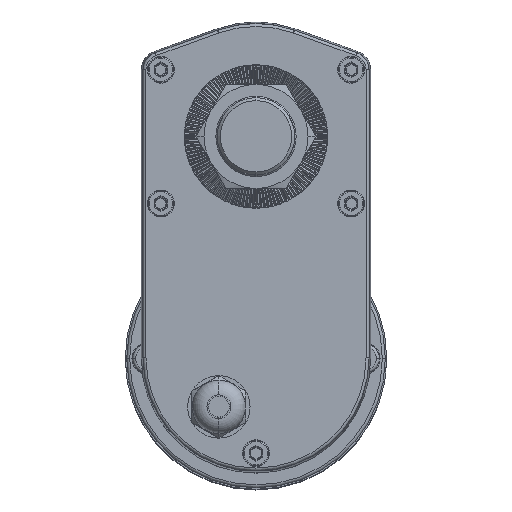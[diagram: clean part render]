
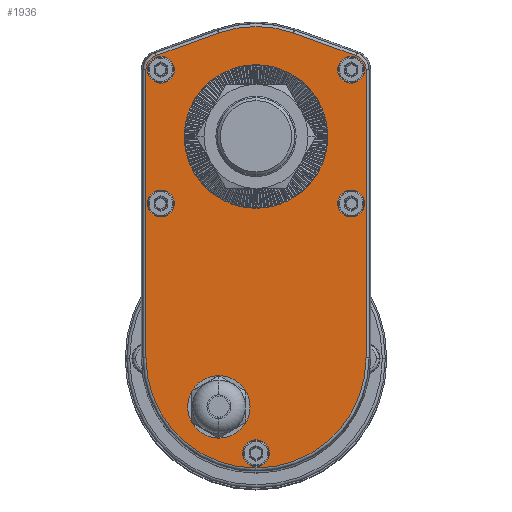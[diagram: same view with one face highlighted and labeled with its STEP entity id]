
A CAD part, top view. The second image highlights one B-rep face of the part: STEP entity #1936.
In plain terms, the highlighted planar face has unit normal (0, 0, 1).
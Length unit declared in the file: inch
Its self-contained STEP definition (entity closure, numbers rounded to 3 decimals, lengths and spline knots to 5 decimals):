
#1936=ADVANCED_FACE('NONE',(#4677,#4678,#4679,#4680,#4681,#4682,#4683,#4684),#4685,.F.);
#4677=FACE_OUTER_BOUND('',#9457,.T.);
#4678=FACE_BOUND('',#9458,.T.);
#4679=FACE_BOUND('',#9459,.T.);
#4680=FACE_BOUND('',#9460,.T.);
#4681=FACE_BOUND('',#9461,.T.);
#4682=FACE_BOUND('',#9462,.T.);
#4683=FACE_BOUND('',#9463,.T.);
#4684=FACE_BOUND('',#9464,.T.);
#4685=PLANE('',#9465);
#9457=EDGE_LOOP('',(#17319,#17320,#17321,#17322,#17323,#17324,#17325,#17326));
#9458=EDGE_LOOP('',(#17327,#17328));
#9459=EDGE_LOOP('',(#17329,#17330));
#9460=EDGE_LOOP('',(#17331,#17332));
#9461=EDGE_LOOP('',(#17333,#17334));
#9462=EDGE_LOOP('',(#17335,#17336));
#9463=EDGE_LOOP('',(#17337,#17338));
#9464=EDGE_LOOP('',(#17339,#17340));
#9465=AXIS2_PLACEMENT_3D('',#17341,#17342,#17343);
#17319=ORIENTED_EDGE('',*,*,#26296,.T.);
#17320=ORIENTED_EDGE('',*,*,#26297,.T.);
#17321=ORIENTED_EDGE('',*,*,#26298,.T.);
#17322=ORIENTED_EDGE('',*,*,#26299,.T.);
#17323=ORIENTED_EDGE('',*,*,#25374,.T.);
#17324=ORIENTED_EDGE('',*,*,#26300,.T.);
#17325=ORIENTED_EDGE('',*,*,#26301,.T.);
#17326=ORIENTED_EDGE('',*,*,#26075,.T.);
#17327=ORIENTED_EDGE('',*,*,#26228,.F.);
#17328=ORIENTED_EDGE('',*,*,#26302,.F.);
#17329=ORIENTED_EDGE('',*,*,#26303,.F.);
#17330=ORIENTED_EDGE('',*,*,#26304,.F.);
#17331=ORIENTED_EDGE('',*,*,#26305,.F.);
#17332=ORIENTED_EDGE('',*,*,#26306,.F.);
#17333=ORIENTED_EDGE('',*,*,#26307,.F.);
#17334=ORIENTED_EDGE('',*,*,#26308,.F.);
#17335=ORIENTED_EDGE('',*,*,#26117,.F.);
#17336=ORIENTED_EDGE('',*,*,#26309,.F.);
#17337=ORIENTED_EDGE('',*,*,#24594,.F.);
#17338=ORIENTED_EDGE('',*,*,#26310,.F.);
#17339=ORIENTED_EDGE('',*,*,#26292,.F.);
#17340=ORIENTED_EDGE('',*,*,#26311,.F.);
#17341=CARTESIAN_POINT('',(-1.09822,2.41333,28.81693));
#17342=DIRECTION('',(0.0,0.0,-1.0));
#17343=DIRECTION('',(0.0,-1.0,0.0));
#24594=EDGE_CURVE('NONE',#28846,#28849,#28850,.T.);
#25374=EDGE_CURVE('NONE',#30215,#30213,#30216,.T.);
#26075=EDGE_CURVE('NONE',#31308,#31313,#31315,.T.);
#26117=EDGE_CURVE('NONE',#31375,#31377,#31378,.T.);
#26228=EDGE_CURVE('NONE',#31541,#31543,#31544,.T.);
#26292=EDGE_CURVE('NONE',#31640,#31643,#31644,.T.);
#26296=EDGE_CURVE('NONE',#31313,#31649,#31650,.T.);
#26297=EDGE_CURVE('NONE',#31649,#31651,#31652,.T.);
#26298=EDGE_CURVE('NONE',#31651,#31653,#31654,.T.);
#26299=EDGE_CURVE('NONE',#31653,#30215,#31655,.T.);
#26300=EDGE_CURVE('NONE',#30213,#31656,#31657,.T.);
#26301=EDGE_CURVE('NONE',#31656,#31308,#31658,.T.);
#26302=EDGE_CURVE('NONE',#31543,#31541,#31659,.T.);
#26303=EDGE_CURVE('NONE',#31660,#31661,#31662,.T.);
#26304=EDGE_CURVE('NONE',#31661,#31660,#31663,.T.);
#26305=EDGE_CURVE('NONE',#31664,#31665,#31666,.T.);
#26306=EDGE_CURVE('NONE',#31665,#31664,#31667,.T.);
#26307=EDGE_CURVE('NONE',#31668,#31669,#31670,.T.);
#26308=EDGE_CURVE('NONE',#31669,#31668,#31671,.T.);
#26309=EDGE_CURVE('NONE',#31377,#31375,#31672,.T.);
#26310=EDGE_CURVE('NONE',#28849,#28846,#31673,.T.);
#26311=EDGE_CURVE('NONE',#31643,#31640,#31674,.T.);
#28846=VERTEX_POINT('NONE',#35125);
#28849=VERTEX_POINT('',#35129);
#28850=CIRCLE('',#35130,0.17717);
#30213=VERTEX_POINT('NONE',#39024);
#30215=VERTEX_POINT('NONE',#39026);
#30216=LINE('',#39027,#39028);
#31308=VERTEX_POINT('NONE',#41509);
#31313=VERTEX_POINT('NONE',#41514);
#31315=CIRCLE('',#41516,0.19754);
#31375=VERTEX_POINT('NONE',#41698);
#31377=VERTEX_POINT('',#41701);
#31378=CIRCLE('',#41702,0.17717);
#31541=VERTEX_POINT('NONE',#42076);
#31543=VERTEX_POINT('',#42079);
#31544=CIRCLE('',#42080,0.3248);
#31640=VERTEX_POINT('NONE',#42297);
#31643=VERTEX_POINT('',#42301);
#31644=CIRCLE('',#42302,0.17717);
#31649=VERTEX_POINT('NONE',#42308);
#31650=LINE('',#42309,#42310);
#31651=VERTEX_POINT('NONE',#42311);
#31652=CIRCLE('',#42312,1.45718);
#31653=VERTEX_POINT('NONE',#42313);
#31654=LINE('',#42314,#42315);
#31655=CIRCLE('',#42316,0.19754);
#31656=VERTEX_POINT('NONE',#42317);
#31657=CIRCLE('',#42318,1.45738);
#31658=LINE('',#42319,#42320);
#31659=CIRCLE('',#42321,0.3248);
#31660=VERTEX_POINT('NONE',#42322);
#31661=VERTEX_POINT('',#42323);
#31662=CIRCLE('',#42324,0.94882);
#31663=CIRCLE('',#42325,0.94882);
#31664=VERTEX_POINT('NONE',#42326);
#31665=VERTEX_POINT('',#42327);
#31666=CIRCLE('',#42328,0.17717);
#31667=CIRCLE('',#42329,0.17717);
#31668=VERTEX_POINT('NONE',#42330);
#31669=VERTEX_POINT('',#42331);
#31670=CIRCLE('',#42332,0.17717);
#31671=CIRCLE('',#42333,0.17717);
#31672=CIRCLE('',#42334,0.17717);
#31673=CIRCLE('',#42335,0.17717);
#31674=CIRCLE('',#42336,0.17717);
#35125=CARTESIAN_POINT('',(-2.1809,1.52593,28.81693));
#35129=CARTESIAN_POINT('',(-2.53523,1.52593,28.81693));
#35130=AXIS2_PLACEMENT_3D('',#49855,#49856,#49857);
#39024=CARTESIAN_POINT('',(-0.60273,3.78389,28.81693));
#39026=CARTESIAN_POINT('',(0.22858,3.48335,28.81693));
#39027=CARTESIAN_POINT('',(-0.60273,3.78389,28.81693));
#39028=VECTOR('',#50585,39.37008);
#41509=CARTESIAN_POINT('',(-2.42503,3.48335,28.81693));
#41514=CARTESIAN_POINT('',(-2.55541,3.29758,28.81693));
#41516=AXIS2_PLACEMENT_3D('',#51349,#51350,#51351);
#41698=CARTESIAN_POINT('',(-0.92106,-1.78116,28.81693));
#41701=CARTESIAN_POINT('',(-1.27539,-1.78116,28.81693));
#41702=AXIS2_PLACEMENT_3D('',#51392,#51393,#51394);
#42076=CARTESIAN_POINT('',(-1.91515,-1.16801,28.81693));
#42079=CARTESIAN_POINT('',(-1.26555,-1.16801,28.81693));
#42080=AXIS2_PLACEMENT_3D('',#51504,#51505,#51506);
#42297=CARTESIAN_POINT('',(-2.1809,3.29758,28.81693));
#42301=CARTESIAN_POINT('',(-2.53523,3.29758,28.81693));
#42302=AXIS2_PLACEMENT_3D('',#51569,#51570,#51571);
#42308=CARTESIAN_POINT('',(-2.55541,-0.51954,28.81693));
#42309=CARTESIAN_POINT('',(-2.55541,-0.51954,28.81693));
#42310=VECTOR('',#51576,39.37008);
#42311=CARTESIAN_POINT('',(0.35896,-0.51954,28.81693));
#42312=AXIS2_PLACEMENT_3D('',#51577,#51578,#51579);
#42313=CARTESIAN_POINT('',(0.35896,3.29758,28.81693));
#42314=CARTESIAN_POINT('',(0.35896,3.29758,28.81693));
#42315=VECTOR('',#51580,39.37008);
#42316=AXIS2_PLACEMENT_3D('',#51581,#51582,#51583);
#42317=CARTESIAN_POINT('',(-1.59372,3.78389,28.81693));
#42318=AXIS2_PLACEMENT_3D('',#51584,#51585,#51586);
#42319=CARTESIAN_POINT('',(-2.42503,3.48335,28.81693));
#42320=VECTOR('',#51587,39.37008);
#42321=AXIS2_PLACEMENT_3D('',#51588,#51589,#51590);
#42322=CARTESIAN_POINT('',(-2.04704,2.41333,28.81693));
#42323=CARTESIAN_POINT('',(-0.14941,2.41333,28.81693));
#42324=AXIS2_PLACEMENT_3D('',#51591,#51592,#51593);
#42325=AXIS2_PLACEMENT_3D('',#51594,#51595,#51596);
#42326=CARTESIAN_POINT('',(-0.01555,3.29758,28.81693));
#42327=CARTESIAN_POINT('',(0.33878,3.29758,28.81693));
#42328=AXIS2_PLACEMENT_3D('',#51597,#51598,#51599);
#42329=AXIS2_PLACEMENT_3D('',#51600,#51601,#51602);
#42330=CARTESIAN_POINT('',(-0.01555,1.52593,28.81693));
#42331=CARTESIAN_POINT('',(0.33878,1.52593,28.81693));
#42332=AXIS2_PLACEMENT_3D('',#51603,#51604,#51605);
#42333=AXIS2_PLACEMENT_3D('',#51606,#51607,#51608);
#42334=AXIS2_PLACEMENT_3D('',#51609,#51610,#51611);
#42335=AXIS2_PLACEMENT_3D('',#51612,#51613,#51614);
#42336=AXIS2_PLACEMENT_3D('',#51615,#51616,#51617);
#49855=CARTESIAN_POINT('',(-2.35807,1.52593,28.81693));
#49856=DIRECTION('',(0.0,0.0,1.0));
#49857=DIRECTION('',(1.0,0.0,0.0));
#50585=DIRECTION('',(-0.94,0.34,0.0));
#51349=CARTESIAN_POINT('',(-2.35787,3.29758,28.81693));
#51350=DIRECTION('',(0.0,0.0,1.0));
#51351=DIRECTION('',(-1.0,0.0,0.0));
#51392=CARTESIAN_POINT('',(-1.09822,-1.78116,28.81693));
#51393=DIRECTION('',(0.0,0.0,1.0));
#51394=DIRECTION('',(1.0,0.0,0.0));
#51504=CARTESIAN_POINT('',(-1.59035,-1.16801,28.81693));
#51505=DIRECTION('',(0.0,0.0,1.0));
#51506=DIRECTION('',(-1.0,0.0,0.0));
#51569=CARTESIAN_POINT('',(-2.35807,3.29758,28.81693));
#51570=DIRECTION('',(0.0,0.0,1.0));
#51571=DIRECTION('',(1.0,0.0,0.0));
#51576=DIRECTION('',(0.,-1.0,-0.0));
#51577=CARTESIAN_POINT('',(-1.09822,-0.51954,28.81693));
#51578=DIRECTION('',(0.0,0.0,1.0));
#51579=DIRECTION('',(-1.0,0.0,0.0));
#51580=DIRECTION('',(0.,1.0,0.0));
#51581=CARTESIAN_POINT('',(0.16142,3.29758,28.81693));
#51582=DIRECTION('',(0.0,0.0,1.0));
#51583=DIRECTION('',(-1.0,0.,0.0));
#51584=CARTESIAN_POINT('',(-1.09822,2.41333,28.81693));
#51585=DIRECTION('',(0.0,0.0,1.0));
#51586=DIRECTION('',(-1.0,0.,0.0));
#51587=DIRECTION('',(-0.94,-0.34,-0.0));
#51588=CARTESIAN_POINT('',(-1.59035,-1.16801,28.81693));
#51589=DIRECTION('',(0.0,0.0,1.0));
#51590=DIRECTION('',(-1.0,0.0,0.0));
#51591=CARTESIAN_POINT('',(-1.09822,2.41333,28.81693));
#51592=DIRECTION('',(0.0,0.0,1.0));
#51593=DIRECTION('',(-1.0,0.0,0.0));
#51594=CARTESIAN_POINT('',(-1.09822,2.41333,28.81693));
#51595=DIRECTION('',(0.0,0.0,1.0));
#51596=DIRECTION('',(-1.0,0.0,0.0));
#51597=CARTESIAN_POINT('',(0.16162,3.29758,28.81693));
#51598=DIRECTION('',(0.0,0.0,1.0));
#51599=DIRECTION('',(-1.0,0.0,0.0));
#51600=CARTESIAN_POINT('',(0.16162,3.29758,28.81693));
#51601=DIRECTION('',(0.0,0.0,1.0));
#51602=DIRECTION('',(-1.0,0.0,0.0));
#51603=CARTESIAN_POINT('',(0.16162,1.52593,28.81693));
#51604=DIRECTION('',(0.0,0.0,1.0));
#51605=DIRECTION('',(-1.0,0.0,0.0));
#51606=CARTESIAN_POINT('',(0.16162,1.52593,28.81693));
#51607=DIRECTION('',(0.0,0.0,1.0));
#51608=DIRECTION('',(-1.0,0.0,0.0));
#51609=CARTESIAN_POINT('',(-1.09822,-1.78116,28.81693));
#51610=DIRECTION('',(0.0,0.0,1.0));
#51611=DIRECTION('',(1.0,0.0,0.0));
#51612=CARTESIAN_POINT('',(-2.35807,1.52593,28.81693));
#51613=DIRECTION('',(0.0,0.0,1.0));
#51614=DIRECTION('',(1.0,0.0,0.0));
#51615=CARTESIAN_POINT('',(-2.35807,3.29758,28.81693));
#51616=DIRECTION('',(0.0,0.0,1.0));
#51617=DIRECTION('',(1.0,0.0,0.0));
